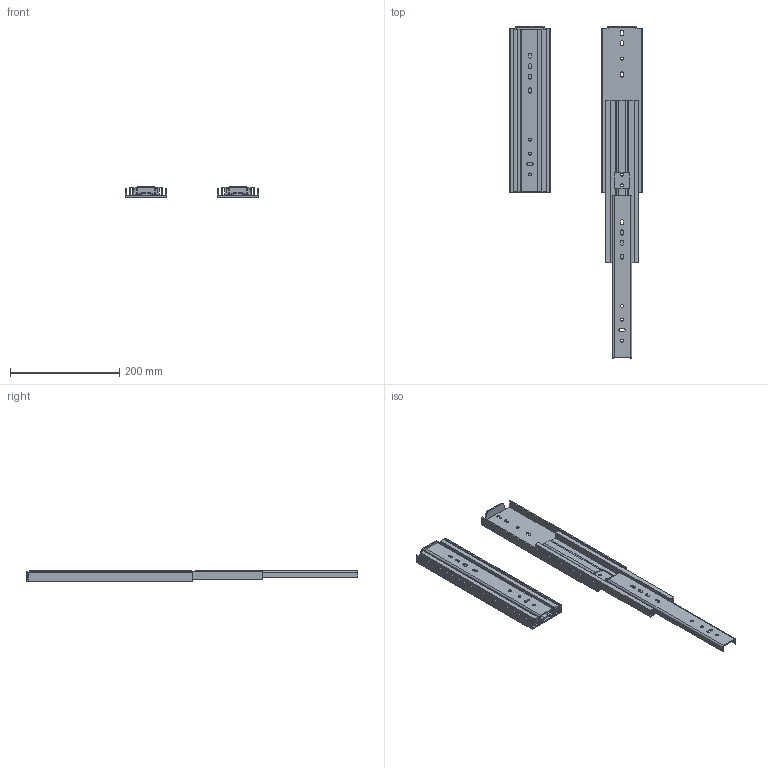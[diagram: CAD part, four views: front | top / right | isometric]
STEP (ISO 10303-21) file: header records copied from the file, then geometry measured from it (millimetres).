
FILE_DESCRIPTION((''),'2;1');
FILE_NAME('ASSEM1_1_2_ASM','2026-04-07T16:23:50',('T260078'),(''),'CREO PARAMETRIC BY PTC INC, 2025123','CREO PARAMETRIC BY PTC INC, 2025123','');
FILE_SCHEMA(('CONFIG_CONTROL_DESIGN','SHAPE_APPEARANCE_LAYERS_GROUPS'));
Length unit declared in the file: millimetre
Products named in the file (6): 76J01-12_X2_540B_X0_-I; 76J01-12_X2_540B_X0_-M; 76J01-12_X2_540B_X0_-O; 76J01-12_X2_540_X0__ASM; 76J01-12_X2_540B_X0_-_X2_5C5595_ASM; ASSEM1_1_2_ASM
Assembly tree (8 placements, depth 3):
  ASSEM1_1_2_ASM
    76J01-12_X2_540_X0__ASM
      76J01-12_X2_540B_X0_-I
      76J01-12_X2_540B_X0_-M
      76J01-12_X2_540B_X0_-O
    76J01-12_X2_540B_X0_-_X2_5C5595_ASM
      76J01-12_X2_540B_X0_-M
      76J01-12_X2_540B_X0_-I
      76J01-12_X2_540B_X0_-O
Bounding box: 245.44 x 608.9 x 19.3 mm (x, y, z)
Volume: 368341.6 mm3; surface area: 331995.1 mm2
Topology: 6 solids, 6 shells, 320 faces, 990 edges, 674 vertices
Faces by surface type: plane 176, cylinder 144
Entity records: 6842 total; most frequent: CARTESIAN_POINT 1037, DIRECTION 1007, ORIENTED_EDGE 990, EDGE_CURVE 495, AXIS2_PLACEMENT_3D 339, VERTEX_POINT 337, VECTOR 329, LINE 329
